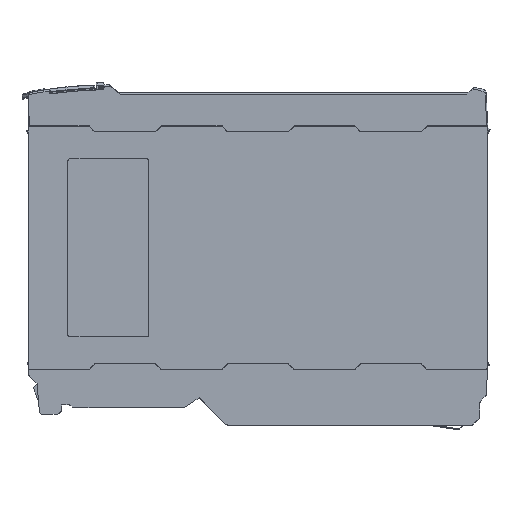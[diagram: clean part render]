
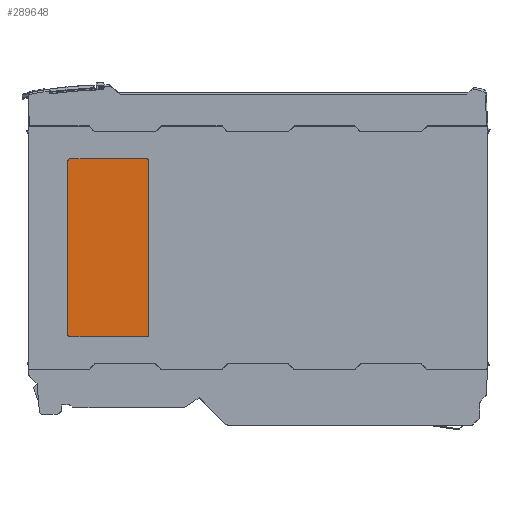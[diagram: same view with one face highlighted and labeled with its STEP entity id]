
A CAD part, left-side view. The second image highlights one B-rep face of the part: STEP entity #289648.
In plain terms, the highlighted planar face has unit normal (-1, 0, 0).
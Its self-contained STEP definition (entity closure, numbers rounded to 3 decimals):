
#34347 = EDGE_LOOP ( 'NONE', ( #146660, #146663, #146666, #146668, #146670, #146672, #146675, #146678 ) ) ;
#40338 = VERTEX_POINT ( 'NONE', #221778 ) ;
#40352 = VERTEX_POINT ( 'NONE', #221781 ) ;
#40374 = VERTEX_POINT ( 'NONE', #221785 ) ;
#40383 = VERTEX_POINT ( 'NONE', #221786 ) ;
#40396 = VERTEX_POINT ( 'NONE', #221789 ) ;
#40400 = VERTEX_POINT ( 'NONE', #221794 ) ;
#40411 = VERTEX_POINT ( 'NONE', #221792 ) ;
#40415 = VERTEX_POINT ( 'NONE', #221788 ) ;
#88229 = EDGE_CURVE ( 'NONE', #40415, #40338, #207261, .T. ) ;
#88231 = EDGE_CURVE ( 'NONE', #40411, #40415, #238883, .T. ) ;
#88236 = EDGE_CURVE ( 'NONE', #40400, #40411, #207266, .T. ) ;
#88241 = EDGE_CURVE ( 'NONE', #40396, #40400, #238880, .T. ) ;
#88245 = EDGE_CURVE ( 'NONE', #40383, #40396, #207274, .T. ) ;
#88249 = EDGE_CURVE ( 'NONE', #40374, #40383, #238906, .T. ) ;
#88252 = EDGE_CURVE ( 'NONE', #40352, #40374, #207281, .T. ) ;
#88255 = EDGE_CURVE ( 'NONE', #40338, #40352, #238930, .T. ) ;
#146660 = ORIENTED_EDGE ( 'NONE', *, *, #88255, .T. ) ;
#146663 = ORIENTED_EDGE ( 'NONE', *, *, #88252, .T. ) ;
#146666 = ORIENTED_EDGE ( 'NONE', *, *, #88249, .T. ) ;
#146668 = ORIENTED_EDGE ( 'NONE', *, *, #88245, .T. ) ;
#146670 = ORIENTED_EDGE ( 'NONE', *, *, #88241, .T. ) ;
#146672 = ORIENTED_EDGE ( 'NONE', *, *, #88236, .T. ) ;
#146675 = ORIENTED_EDGE ( 'NONE', *, *, #88231, .T. ) ;
#146678 = ORIENTED_EDGE ( 'NONE', *, *, #88229, .T. ) ;
#207253 = VECTOR ( 'NONE', #238901, 1000. ) ;
#207261 = CIRCLE ( 'NONE', #207265, 1. ) ;
#207265 = AXIS2_PLACEMENT_3D ( 'NONE', #238887, #238890, #238894 ) ;
#207266 = CIRCLE ( 'NONE', #207271, 1. ) ;
#207269 = VECTOR ( 'NONE', #238924, 1000. ) ;
#207271 = AXIS2_PLACEMENT_3D ( 'NONE', #238914, #238917, #238921 ) ;
#207274 = CIRCLE ( 'NONE', #207278, 1. ) ;
#207276 = VECTOR ( 'NONE', #238949, 1000. ) ;
#207278 = AXIS2_PLACEMENT_3D ( 'NONE', #238938, #238941, #238944 ) ;
#207281 = CIRCLE ( 'NONE', #207286, 1. ) ;
#207283 = VECTOR ( 'NONE', #238971, 1000. ) ;
#207286 = AXIS2_PLACEMENT_3D ( 'NONE', #238962, #238965, #238967 ) ;
#221778 = CARTESIAN_POINT ( 'NONE',  ( -32.789, 95.8, 33.464 ) ) ;
#221781 = CARTESIAN_POINT ( 'NONE',  ( -32.789, 57., 33.464 ) ) ;
#221785 = CARTESIAN_POINT ( 'NONE',  ( -32.789, 56., 34.464 ) ) ;
#221786 = CARTESIAN_POINT ( 'NONE',  ( -32.789, 56., 122.464 ) ) ;
#221788 = CARTESIAN_POINT ( 'NONE',  ( -32.789, 96.8, 34.464 ) ) ;
#221789 = CARTESIAN_POINT ( 'NONE',  ( -32.789, 57., 123.464 ) ) ;
#221792 = CARTESIAN_POINT ( 'NONE',  ( -32.789, 96.8, 122.464 ) ) ;
#221794 = CARTESIAN_POINT ( 'NONE',  ( -32.789, 95.8, 123.464 ) ) ;
#238830 = CARTESIAN_POINT ( 'NONE',  ( -32.789, 96.8, 33.464 ) ) ;
#238876 = CARTESIAN_POINT ( 'NONE',  ( -32.789, 96.8, 123.464 ) ) ;
#238880 = LINE ( 'NONE', #238876, #207269 ) ;
#238883 = LINE ( 'NONE', #238830, #207253 ) ;
#238887 = CARTESIAN_POINT ( 'NONE',  ( -32.789, 95.8, 34.464 ) ) ;
#238890 = DIRECTION ( 'NONE',  ( -1., 0., 0. ) ) ;
#238894 = DIRECTION ( 'NONE',  ( 0., 1., 0. ) ) ;
#238901 = DIRECTION ( 'NONE',  ( 0., 0., -1. ) ) ;
#238906 = LINE ( 'NONE', #238912, #207276 ) ;
#238912 = CARTESIAN_POINT ( 'NONE',  ( -32.789, 56., 33.464 ) ) ;
#238914 = CARTESIAN_POINT ( 'NONE',  ( -32.789, 95.8, 122.464 ) ) ;
#238917 = DIRECTION ( 'NONE',  ( -1., 0., 0. ) ) ;
#238921 = DIRECTION ( 'NONE',  ( 0., 1., 0. ) ) ;
#238924 = DIRECTION ( 'NONE',  ( 0., 1., 0. ) ) ;
#238930 = LINE ( 'NONE', #238934, #207283 ) ;
#238934 = CARTESIAN_POINT ( 'NONE',  ( -32.789, 96.8, 33.464 ) ) ;
#238938 = CARTESIAN_POINT ( 'NONE',  ( -32.789, 57., 122.464 ) ) ;
#238941 = DIRECTION ( 'NONE',  ( -1., 0., 0. ) ) ;
#238944 = DIRECTION ( 'NONE',  ( 0., 1., 0. ) ) ;
#238949 = DIRECTION ( 'NONE',  ( 0., 0., 1. ) ) ;
#238962 = CARTESIAN_POINT ( 'NONE',  ( -32.789, 57., 34.464 ) ) ;
#238965 = DIRECTION ( 'NONE',  ( -1., 0., 0. ) ) ;
#238967 = DIRECTION ( 'NONE',  ( 0., 1., 0. ) ) ;
#238971 = DIRECTION ( 'NONE',  ( 0., -1., 0. ) ) ;
#253954 = PLANE ( 'NONE',  #260513 ) ;
#260513 = AXIS2_PLACEMENT_3D ( 'NONE', #263589, #263592, #263595 ) ;
#263547 = FACE_OUTER_BOUND ( 'NONE', #34347, .T. ) ;
#263589 = CARTESIAN_POINT ( 'NONE',  ( -32.789, 0.763, 71.197 ) ) ;
#263592 = DIRECTION ( 'NONE',  ( -1., 0., 0. ) ) ;
#263595 = DIRECTION ( 'NONE',  ( 0., 1., 0. ) ) ;
#289648 = ADVANCED_FACE ( 'NONE', ( #263547 ), #253954, .T. ) ;
